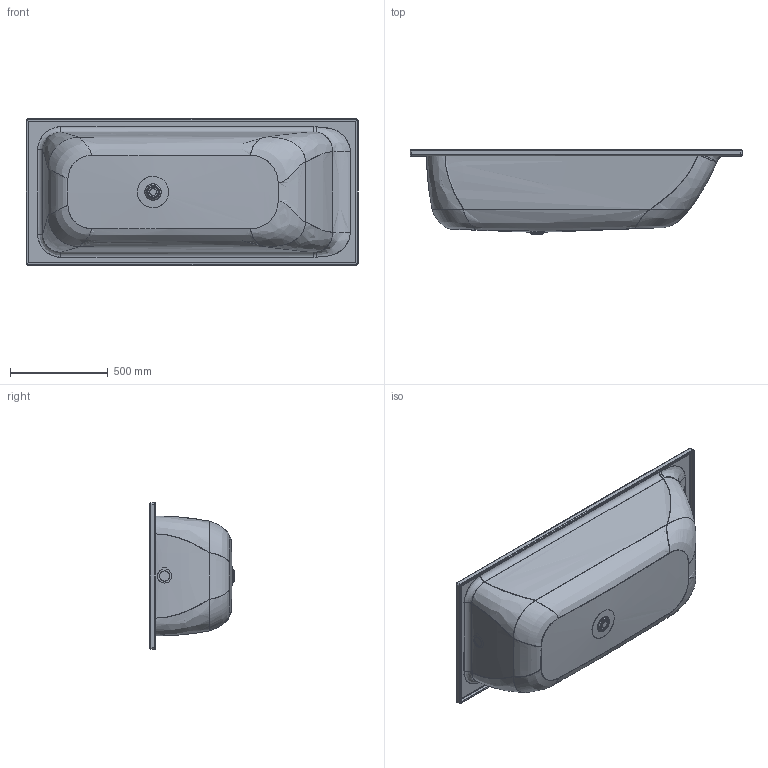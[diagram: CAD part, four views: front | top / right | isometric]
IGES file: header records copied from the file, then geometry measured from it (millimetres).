
Start section: Write IGES format                                    datakit 2008 (c)
Global section: file name: Unknown; native system: DATAKIT Converter; preprocessor: Unknown; author: Unknown; organization: Unknown; date: 950613.180003; units: millimetre
Bounding box: 1699 x 430 x 749 mm (x, y, z)
Surface area: 5075533.6 mm2 (no closed solid volume)
Topology: 0 solids, 0 shells, 156 faces, 1028 edges, 1022 vertices
Faces by surface type: revolution 76, bspline 55, offset 25
